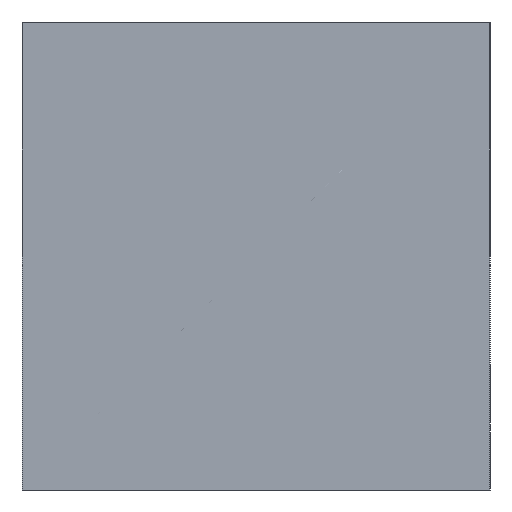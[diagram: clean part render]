
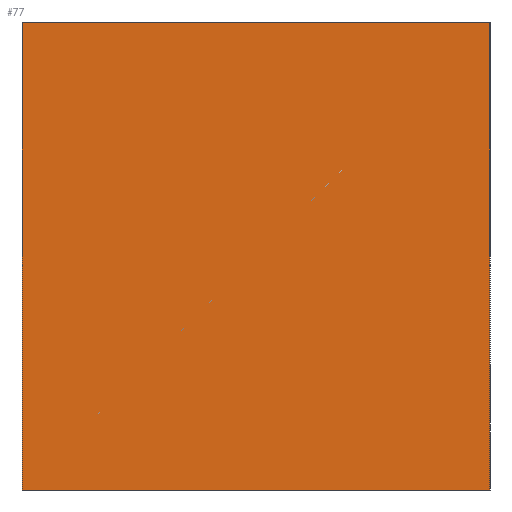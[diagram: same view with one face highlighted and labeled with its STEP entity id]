
A CAD part, left-side view. The second image highlights one B-rep face of the part: STEP entity #77.
In plain terms, the highlighted planar face has unit normal (-1, 0, 0).
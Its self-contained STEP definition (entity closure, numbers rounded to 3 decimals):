
#71=FACE_OUTER_BOUND('',#268,.T.);
#77=ADVANCED_FACE('',(#71),#120,.T.);
#120=PLANE('',#617);
#137=LINE('',#880,#149);
#140=LINE('',#895,#152);
#142=LINE('',#911,#154);
#145=LINE('',#919,#157);
#149=VECTOR('',#693,1.);
#152=VECTOR('',#706,1.);
#154=VECTOR('',#722,1.);
#157=VECTOR('',#731,1.);
#268=EDGE_LOOP('',(#370,#371,#372,#373));
#370=ORIENTED_EDGE('',*,*,#527,.T.);
#371=ORIENTED_EDGE('',*,*,#507,.T.);
#372=ORIENTED_EDGE('',*,*,#522,.F.);
#373=ORIENTED_EDGE('',*,*,#514,.T.);
#451=VERTEX_POINT('',#875);
#453=VERTEX_POINT('',#879);
#460=VERTEX_POINT('',#894);
#461=VERTEX_POINT('',#896);
#507=EDGE_CURVE('',#451,#453,#137,.T.);
#514=EDGE_CURVE('',#461,#460,#140,.T.);
#522=EDGE_CURVE('',#461,#453,#142,.T.);
#527=EDGE_CURVE('',#460,#451,#145,.T.);
#617=AXIS2_PLACEMENT_3D('',#921,#734,#735);
#693=DIRECTION('',(0.,0.,1.));
#706=DIRECTION('',(0.,0.,-1.));
#722=DIRECTION('',(0.,-1.,0.));
#731=DIRECTION('',(0.,-1.,0.));
#734=DIRECTION('',(-1.,0.,0.));
#735=DIRECTION('',(0.,-1.,0.));
#875=CARTESIAN_POINT('',(-39.,-28.,-56.));
#879=CARTESIAN_POINT('',(-39.,-28.,0.));
#880=CARTESIAN_POINT('',(-39.,-28.,-28.));
#894=CARTESIAN_POINT('',(-39.,28.,-56.));
#895=CARTESIAN_POINT('',(-39.,28.,-28.));
#896=CARTESIAN_POINT('',(-39.,28.,0.));
#911=CARTESIAN_POINT('',(-39.,28.,0.));
#919=CARTESIAN_POINT('',(-39.,28.,-56.));
#921=CARTESIAN_POINT('',(-39.,28.,-28.));
